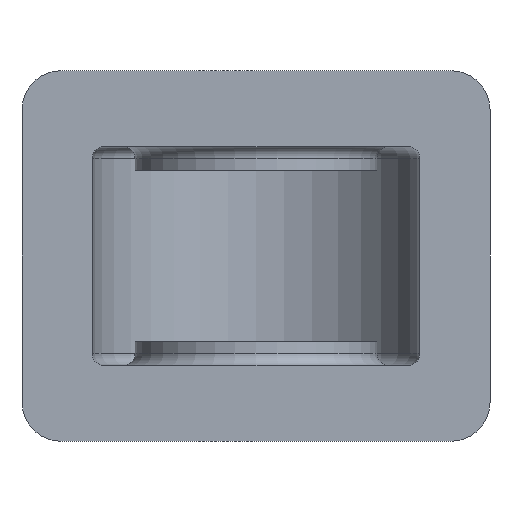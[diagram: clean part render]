
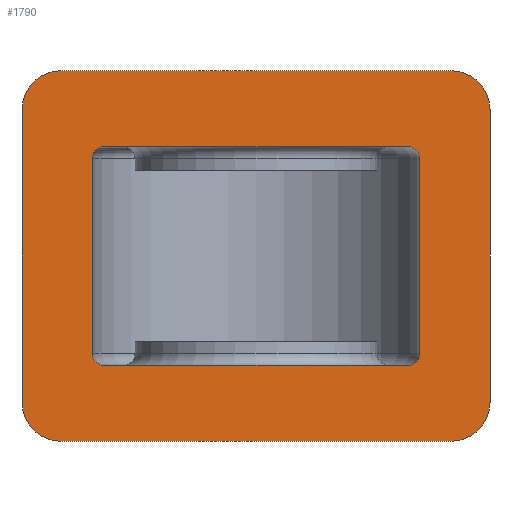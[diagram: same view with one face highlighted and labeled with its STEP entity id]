
A CAD part, front view. The second image highlights one B-rep face of the part: STEP entity #1790.
In plain terms, the highlighted planar face has unit normal (0, -1, 0).
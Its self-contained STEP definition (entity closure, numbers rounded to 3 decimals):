
#123=CARTESIAN_POINT('',(-39.,0.,-28.));
#124=VERTEX_POINT('',#123);
#131=CARTESIAN_POINT('',(39.,0.,-28.));
#132=VERTEX_POINT('',#131);
#133=CARTESIAN_POINT('',(39.,0.,-28.));
#134=DIRECTION('',(-1.0,0.0,0.0));
#135=VECTOR('',#134,78.);
#136=LINE('',#133,#135);
#137=EDGE_CURVE('',#132,#124,#136,.T.);
#430=CARTESIAN_POINT('',(-60.0,0.,-37.5));
#431=VERTEX_POINT('',#430);
#438=CARTESIAN_POINT('',(-60.0,0.,37.5));
#439=VERTEX_POINT('',#438);
#440=CARTESIAN_POINT('',(-60.0,0.,-37.5));
#441=DIRECTION('',(0.0,0.0,1.0));
#442=VECTOR('',#441,75.0);
#443=LINE('',#440,#442);
#444=EDGE_CURVE('',#431,#439,#443,.T.);
#461=CARTESIAN_POINT('',(-50.,0.,-47.5));
#462=VERTEX_POINT('',#461);
#469=CARTESIAN_POINT('',(-50.0,0.,-37.5));
#470=DIRECTION('',(0.0,1.0,0.0));
#471=DIRECTION('',(-0.707,0.0,-0.707));
#472=AXIS2_PLACEMENT_3D('',#469,#470,#471);
#473=CIRCLE('',#472,10.);
#474=EDGE_CURVE('',#462,#431,#473,.T.);
#486=CARTESIAN_POINT('',(50.,0.,-47.5));
#487=VERTEX_POINT('',#486);
#494=CARTESIAN_POINT('',(50.,0.,-47.5));
#495=DIRECTION('',(-1.0,0.0,0.0));
#496=VECTOR('',#495,100.0);
#497=LINE('',#494,#496);
#498=EDGE_CURVE('',#487,#462,#497,.T.);
#510=CARTESIAN_POINT('',(60.,0.,-37.5));
#511=VERTEX_POINT('',#510);
#518=CARTESIAN_POINT('',(50.,0.,-37.5));
#519=DIRECTION('',(0.0,1.0,0.0));
#520=DIRECTION('',(0.707,0.0,-0.707));
#521=AXIS2_PLACEMENT_3D('',#518,#519,#520);
#522=CIRCLE('',#521,10.);
#523=EDGE_CURVE('',#511,#487,#522,.T.);
#1320=CARTESIAN_POINT('',(-39.,0.,28.));
#1321=VERTEX_POINT('',#1320);
#1339=CARTESIAN_POINT('',(39.,0.,28.));
#1340=VERTEX_POINT('',#1339);
#1347=CARTESIAN_POINT('',(-39.,0.,28.));
#1348=DIRECTION('',(1.0,0.0,0.0));
#1349=VECTOR('',#1348,78.);
#1350=LINE('',#1347,#1349);
#1351=EDGE_CURVE('',#1321,#1340,#1350,.T.);
#1695=CARTESIAN_POINT('',(-51.,0.,0.0));
#1696=DIRECTION('',(0.0,-1.0,0.0));
#1697=DIRECTION('',(1.0,0.0,0.0));
#1698=AXIS2_PLACEMENT_3D('',#1695,#1696,#1697);
#1699=PLANE('',#1698);
#1700=ORIENTED_EDGE('',*,*,#474,.F.);
#1701=ORIENTED_EDGE('',*,*,#498,.F.);
#1702=ORIENTED_EDGE('',*,*,#523,.F.);
#1703=CARTESIAN_POINT('',(60.,0.,37.5));
#1704=VERTEX_POINT('',#1703);
#1705=CARTESIAN_POINT('',(60.,0.,37.5));
#1706=DIRECTION('',(0.0,0.0,-1.0));
#1707=VECTOR('',#1706,75.0);
#1708=LINE('',#1705,#1707);
#1709=EDGE_CURVE('',#1704,#511,#1708,.T.);
#1710=ORIENTED_EDGE('',*,*,#1709,.F.);
#1711=CARTESIAN_POINT('',(50.0,0.,47.5));
#1712=VERTEX_POINT('',#1711);
#1713=CARTESIAN_POINT('',(50.0,0.,37.5));
#1714=DIRECTION('',(0.0,1.0,0.0));
#1715=DIRECTION('',(0.707,0.0,0.707));
#1716=AXIS2_PLACEMENT_3D('',#1713,#1714,#1715);
#1717=CIRCLE('',#1716,10.);
#1718=EDGE_CURVE('',#1712,#1704,#1717,.T.);
#1719=ORIENTED_EDGE('',*,*,#1718,.F.);
#1720=CARTESIAN_POINT('',(-50.0,0.,47.5));
#1721=VERTEX_POINT('',#1720);
#1722=CARTESIAN_POINT('',(-50.0,0.,47.5));
#1723=DIRECTION('',(1.0,0.0,0.0));
#1724=VECTOR('',#1723,100.0);
#1725=LINE('',#1722,#1724);
#1726=EDGE_CURVE('',#1721,#1712,#1725,.T.);
#1727=ORIENTED_EDGE('',*,*,#1726,.F.);
#1728=CARTESIAN_POINT('',(-50.0,0.,37.5));
#1729=DIRECTION('',(0.0,1.0,0.0));
#1730=DIRECTION('',(-0.707,0.0,0.707));
#1731=AXIS2_PLACEMENT_3D('',#1728,#1729,#1730);
#1732=CIRCLE('',#1731,10.);
#1733=EDGE_CURVE('',#439,#1721,#1732,.T.);
#1734=ORIENTED_EDGE('',*,*,#1733,.F.);
#1735=ORIENTED_EDGE('',*,*,#444,.F.);
#1736=EDGE_LOOP('',(#1700,#1701,#1702,#1710,#1719,#1727,#1734,#1735));
#1737=FACE_OUTER_BOUND('',#1736,.T.);
#1738=CARTESIAN_POINT('',(-42.,0.,-25.0));
#1739=VERTEX_POINT('',#1738);
#1740=CARTESIAN_POINT('',(-39.,0.0,-25.0));
#1741=DIRECTION('',(0.0,1.0,0.0));
#1742=DIRECTION('',(-0.707,0.0,-0.707));
#1743=AXIS2_PLACEMENT_3D('',#1740,#1741,#1742);
#1744=CIRCLE('',#1743,3.);
#1745=EDGE_CURVE('',#124,#1739,#1744,.T.);
#1746=ORIENTED_EDGE('',*,*,#1745,.T.);
#1747=CARTESIAN_POINT('',(-42.,0.,25.0));
#1748=VERTEX_POINT('',#1747);
#1749=CARTESIAN_POINT('',(-42.,0.0,-25.0));
#1750=DIRECTION('',(0.0,0.0,1.0));
#1751=VECTOR('',#1750,50.0);
#1752=LINE('',#1749,#1751);
#1753=EDGE_CURVE('',#1739,#1748,#1752,.T.);
#1754=ORIENTED_EDGE('',*,*,#1753,.T.);
#1755=CARTESIAN_POINT('',(-39.,0.0,25.0));
#1756=DIRECTION('',(0.0,1.0,0.0));
#1757=DIRECTION('',(-0.707,0.0,0.707));
#1758=AXIS2_PLACEMENT_3D('',#1755,#1756,#1757);
#1759=CIRCLE('',#1758,3.);
#1760=EDGE_CURVE('',#1748,#1321,#1759,.T.);
#1761=ORIENTED_EDGE('',*,*,#1760,.T.);
#1762=ORIENTED_EDGE('',*,*,#1351,.T.);
#1763=CARTESIAN_POINT('',(42.,0.,25.0));
#1764=VERTEX_POINT('',#1763);
#1765=CARTESIAN_POINT('',(39.,0.,25.0));
#1766=DIRECTION('',(0.,1.0,0.));
#1767=DIRECTION('',(0.707,0.,0.707));
#1768=AXIS2_PLACEMENT_3D('',#1765,#1766,#1767);
#1769=CIRCLE('',#1768,3.);
#1770=EDGE_CURVE('',#1340,#1764,#1769,.T.);
#1771=ORIENTED_EDGE('',*,*,#1770,.T.);
#1772=CARTESIAN_POINT('',(42.,0.,-25.0));
#1773=VERTEX_POINT('',#1772);
#1774=CARTESIAN_POINT('',(42.,0.,25.0));
#1775=DIRECTION('',(0.0,0.0,-1.0));
#1776=VECTOR('',#1775,50.0);
#1777=LINE('',#1774,#1776);
#1778=EDGE_CURVE('',#1764,#1773,#1777,.T.);
#1779=ORIENTED_EDGE('',*,*,#1778,.T.);
#1780=CARTESIAN_POINT('',(39.,0.,-25.0));
#1781=DIRECTION('',(0.,1.0,0.));
#1782=DIRECTION('',(0.707,0.,-0.707));
#1783=AXIS2_PLACEMENT_3D('',#1780,#1781,#1782);
#1784=CIRCLE('',#1783,3.);
#1785=EDGE_CURVE('',#1773,#132,#1784,.T.);
#1786=ORIENTED_EDGE('',*,*,#1785,.T.);
#1787=ORIENTED_EDGE('',*,*,#137,.T.);
#1788=EDGE_LOOP('',(#1746,#1754,#1761,#1762,#1771,#1779,#1786,#1787));
#1789=FACE_BOUND('',#1788,.T.);
#1790=ADVANCED_FACE('',(#1737,#1789),#1699,.T.);
